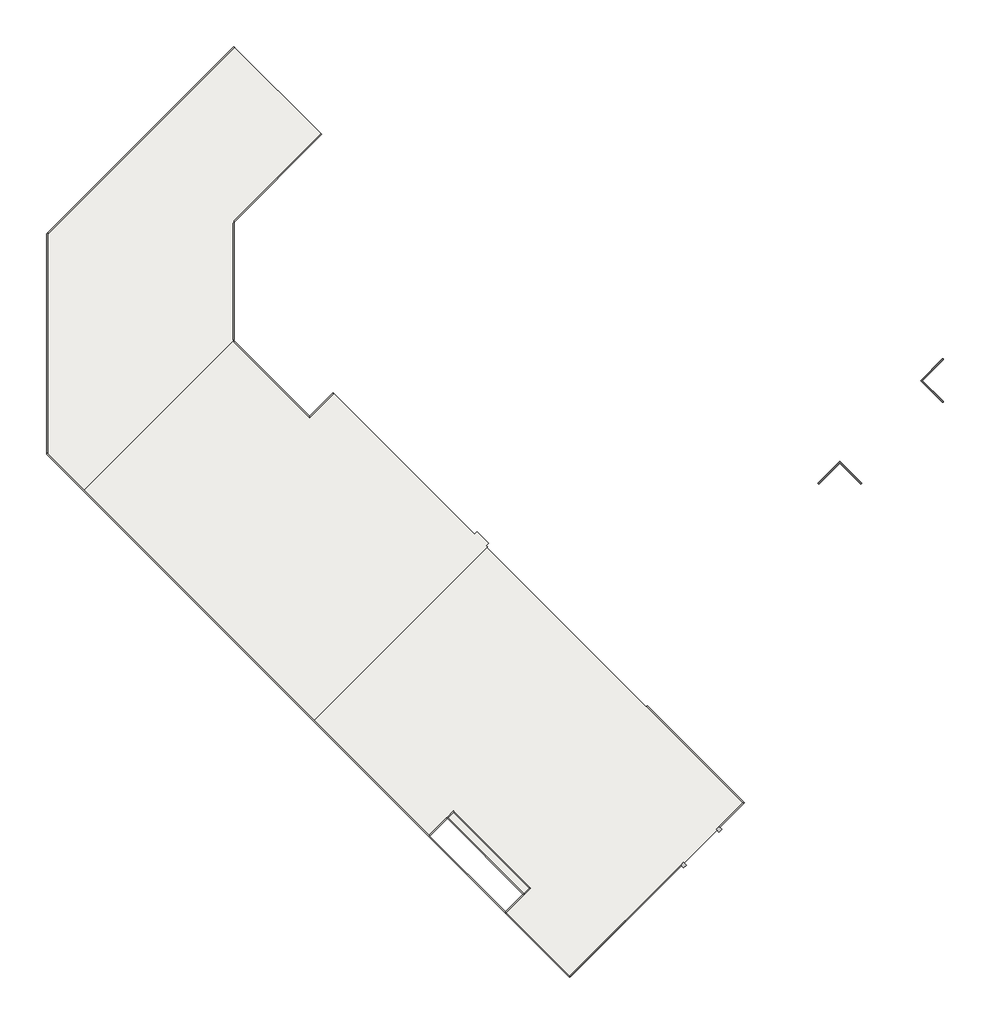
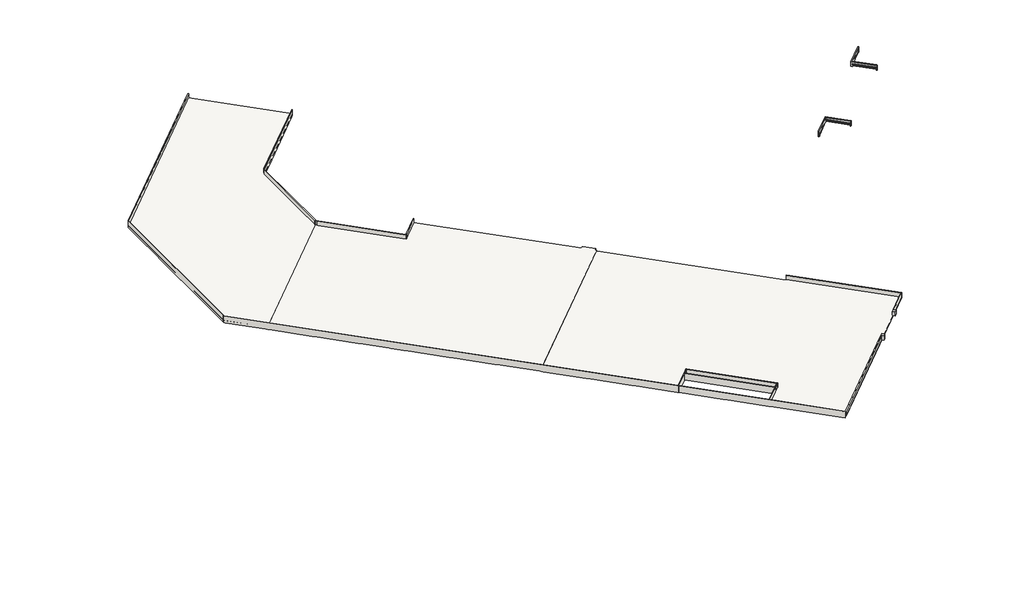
# One storey: 16 walls, 3 slabs, 2 columns, 2 railings.
"""IFC4 building model written with IfcOpenShell, lengths in millimetres."""

from ifc_helpers import new_model, si_unit, frame, origin, place, context, project, spatial, polyline, outline, extrude, faceted_brep, transform, mapped, element, save
from components import equal_corner_railing_small_equal_corner_railing_small_9601f2c6, equal_corner_railing_small_equal_corner_railing_small_101afe3f

model = new_model("IFC4")

# Units and contexts
model_context = context("Model", 3, world=origin())
ifc_project = project(units=[si_unit("LENGTHUNIT", "METRE", prefix="MILLI")], contexts=[model_context])

# Site, building, storey
site = spatial("IfcSite", under=ifc_project)
building = spatial("IfcBuilding", under=site)
storey = spatial("IfcBuildingStorey", under=building, Name="PARKING - PIEDMONT", Elevation=3225.8)

# Columns
placement = place(None, origin())
element("IfcColumn", 1, ObjectType="Rectangular Column : 24\" x 24\"", at=placement, inside=storey, context=model_context, shape_type="Brep", body=[
    faceted_brep([(26490.8260932, -28309.4686077, 3225.8), (26059.7737994, -28740.5209015, 3225.8), (25628.7215056, -28309.4686077, 3225.8), (26059.7737994, -27878.4163138, 3225.8), (26167.5368729, -27986.1793873, 3225.8), (26490.8260932, -28309.4686077, 4140.2), (26059.7737994, -27878.4163138, 4140.2), (26167.5368729, -27986.1793873, 4140.2), (26059.7737994, -28740.5209015, 4140.2), (25628.7215056, -28309.4686077, 4140.2)], [[[0, 1, 2, 3, 4]], [[5, 0, 4, 3, 6, 7]], [[1, 0, 5, 8]], [[2, 1, 8, 9]], [[3, 2, 9, 6]], [[8, 5, 7, 6, 9]]]),
])
element("IfcColumn", 2, ObjectType="Rectangular Column : 24\" x 24\"", at=placement, inside=storey, context=model_context, shape_type="Brep", body=[
    faceted_brep([(20456.0939799, -33482.0961334, 3225.8), (20887.1462737, -33913.1484272, 3225.8), (20456.0939799, -34344.200721, 3225.8), (20132.8047595, -34020.9115007, 3225.8), (20025.0416861, -33913.1484272, 3225.8), (20456.0939799, -33482.0961334, 4140.2), (20887.1462737, -33913.1484272, 4140.2), (20456.0939799, -34344.200721, 4140.2), (20132.8047595, -34020.9115007, 4140.2), (20025.0416861, -33913.1484272, 4140.2)], [[[0, 1, 2, 3, 4]], [[1, 0, 5, 6]], [[2, 1, 6, 7]], [[2, 7, 8, 9, 4, 3]], [[0, 4, 9, 5]], [[6, 5, 9, 8, 7]]]),
])

# Railings
equal_corner_railing_small_equal_corner_railing_small_shape = equal_corner_railing_small_equal_corner_railing_small_9601f2c6(model_context)
element("IfcRailing", 3, ObjectType="Equal Corner Railing_Small : Equal Corner Railing_Small", at=placement, inside=storey, context=model_context, shape_type="MappedRepresentation", body=[
    mapped(equal_corner_railing_small_equal_corner_railing_small_shape, transform((57925.6767654, 42277.9675885, 4140.2), x_axis=(0.7071067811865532, -0.7071067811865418, 0.0), y_axis=(0.7071067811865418, 0.7071067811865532, 0.0), z_axis=(0.0, 0.0, 1.0))),
])
equal_corner_railing_small_equal_corner_railing_small_2_shape = equal_corner_railing_small_equal_corner_railing_small_101afe3f(model_context)
element("IfcRailing", 4, ObjectType="Equal Corner Railing_Small : Equal Corner Railing_Small", at=placement, inside=storey, context=model_context, shape_type="MappedRepresentation", body=[
    mapped(equal_corner_railing_small_equal_corner_railing_small_2_shape, transform((45065.95, 29418.2408231, 4140.2), x_axis=(0.7071067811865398, -0.7071067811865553, 0.0), y_axis=(0.7071067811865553, 0.7071067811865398, 0.0), z_axis=(0.0, 0.0, 1.0))),
])

# Slabs
element("IfcSlab", 5, ObjectType="5\" Concrete Slab", at=placement, inside=storey, context=model_context, shape_type="SweptSolid", body=[
    extrude(outline(polyline([(2675.1868602, -51478.5294), (-7418.6210199, -41384.7215199), (-4545.1756369, -38511.2761369), (-16686.4819126, -26369.9698612), (-19559.9272956, -29243.4152442), (-37610.242099, -11193.1004409), (-10435.9870766, 15981.1545815), (14585.95, -9040.7824951), (14783.5156347, -8843.2168605), (30047.0075172, -24106.708743), (2675.1868602, -51478.5294)])), frame((0.0, 0.0, 3098.8), z_axis=(0.0, 0.0, 1.0), x_axis=(1.0, 0.0, 0.0)), (0.0, 0.0, 1.0), 127.0),
])
element("IfcSlab", 6, ObjectType="5\" Concrete Slab", at=placement, inside=storey, context=model_context, shape_type="SweptSolid", body=[
    extrude(outline(polyline([(-50272.4032297, 94791.8823), (-36442.8088032, 80962.2878735), (-50248.8083521, 67156.2883246), (-50248.8083521, 48656.9607152), (-73962.318877, 24943.4501903), (-79741.113691, 30722.2450042), (-79741.113691, 65323.1718387), (-50272.4032297, 94791.8823)])), frame((0.0, 0.0, 3098.8), z_axis=(0.0, 0.0, 1.0), x_axis=(1.0, 0.0, 0.0)), (0.0, 0.0, 1.0), 127.0),
])
element("IfcSlab", 7, ObjectType="5\" Concrete Slab", at=placement, inside=storey, context=model_context, shape_type="SweptSolid", body=[
    extrude(outline(polyline([(-37753.9261969, -11264.9424899), (-73926.3978526, 24907.5291658), (-50290.3637419, 48543.5632765), (-38378.0539973, 36631.2535319), (-34660.2279632, 40349.079566), (-12393.682911, 18082.5345138), (-11998.5516417, 18477.6657831), (-10220.4609297, 16699.5750711), (-10597.6316868, 16322.4043141), (-10382.1055399, 16106.8781672), (-37753.9261969, -11264.9424899)])), frame((0.0, 0.0, 3098.8), z_axis=(0.0, 0.0, 1.0), x_axis=(1.0, 0.0, 0.0)), (0.0, 0.0, 1.0), 127.0),
])

# Walls
element("IfcWall", 8, ObjectType="01-CONCRETE-6", at=placement, inside=storey, context=model_context, shape_type="Brep", body=[
    faceted_brep([(20025.0416861, -33913.1484272, 3225.8), (2459.6607133, -51478.5294, 3225.8), (2459.6607133, -51478.5294, 4140.2), (2567.4237867, -51370.7663266, 4140.2), (20025.0416861, -33913.1484272, 4140.2), (20132.8047595, -34020.9115007, 3225.8), (20132.8047595, -34020.9115007, 4140.2), (2567.4237867, -51586.2924735, 4140.2), (2567.4237867, -51586.2924735, 3225.8)], [[[0, 1, 2, 3, 4]], [[5, 6, 7, 8]], [[1, 0, 5, 8]], [[4, 3, 2, 7, 6]], [[0, 4, 6, 5]], [[2, 1, 8, 7]]]),
])
element("IfcWall", 9, ObjectType="01-CONCRETE-6", at=placement, inside=storey, context=model_context, shape_type="Brep", body=[
    faceted_brep([(2567.4237867, -51370.7663266, 2717.8), (-7346.778971, -41456.5635689, 2717.8), (-7562.3051179, -41241.037422, 2717.8), (-13381.5110843, -35421.8314555, 2717.8), (-13597.0372312, -35206.3053086, 2717.8), (-19416.2431977, -29387.0993422, 2717.8), (-19631.7693446, -29171.5731953, 2717.8), (-25450.975311, -23352.3672288, 2717.8), (-25666.5014579, -23136.8410819, 2717.8), (-31485.7074244, -17317.6351155, 2717.8), (-31701.2335713, -17102.1089686, 2717.8), (-37394.7159521, -11408.6265878, 2717.8), (-37610.242099, -11193.1004409, 2717.8), (-37646.1631234, -11157.1794164, 2717.8), (-37861.6892703, -10941.6532695, 2717.8), (-43555.1716511, -5248.1708888, 2717.8), (-43770.697798, -5032.6447418, 2717.8), (-49589.9037645, 786.5612246, 2717.8), (-49805.4299114, 1002.0873715, 2717.8), (-55624.6358778, 6821.293338, 2717.8), (-55840.1620247, 7036.8194849, 2717.8), (-57528.4501755, 8725.1076356, 2717.8), (-57743.9763224, 8940.6337825, 2717.8), (-61659.3679912, 12856.0254513, 2717.8), (-61874.8941381, 13071.5515982, 2717.8), (-67694.1001045, 18890.7575647, 2717.8), (-67909.6262514, 19106.2837116, 2717.8), (-73603.1086322, 24799.7660923, 2717.8), (-73818.6347791, 25015.2922393, 2717.8), (-73854.5558036, 25051.2132637, 2717.8), (-74070.0819505, 25266.7394106, 2717.8), (-79417.8244706, 30614.4819307, 2717.8), (-79633.3506175, 30830.0080776, 2717.8), (-79741.113691, 30937.7711511, 2717.8), (-79741.113691, 30937.7711511, 2768.6), (-79741.113691, 30937.7711511, 4140.2), (-79588.713691, 30785.3711511, 4140.2), (-19559.9272956, -29243.4152442, 4140.2), (-19452.1642222, -29351.1783177, 4140.2), (-7526.3840934, -41276.9584465, 4140.2), (-7418.6210199, -41384.7215199, 4140.2), (2567.4237867, -51370.7663266, 4140.2), (2459.6607133, -51478.5294, 2717.8), (2459.6607133, -51478.5294, 3225.8), (2459.6607133, -51478.5294, 4140.2), (-79741.113691, 30722.2450042, 4140.2), (-79741.113691, 30722.2450042, 2717.8), (-79525.587544, 30506.7188573, 2717.8), (-74177.845024, 25158.9763372, 2717.8), (-73962.318877, 24943.4501903, 2717.8), (-73926.3978526, 24907.5291658, 2717.8), (-73710.8717057, 24692.0030189, 2717.8), (-68017.3893249, 18998.5206381, 2717.8), (-67801.863178, 18782.9944912, 2717.8), (-61982.6572115, 12963.7885248, 2717.8), (-61767.1310646, 12748.2623779, 2717.8), (-57851.7393958, 8832.8707091, 2717.8), (-57636.2132489, 8617.3445622, 2717.8), (-55947.9250982, 6929.0564114, 2717.8), (-55732.3989513, 6713.5302645, 2717.8), (-49913.1929848, 894.3242981, 2717.8), (-49697.6668379, 678.7981512, 2717.8), (-43878.4608715, -5140.4078153, 2717.8), (-43662.9347246, -5355.9339622, 2717.8), (-37969.4523438, -11049.416343, 2717.8), (-37753.9261969, -11264.9424899, 2717.8), (-37718.0051724, -11300.8635144, 2717.8), (-37502.4790255, -11516.3896613, 2717.8), (-31808.9966447, -17209.872042, 2717.8), (-31593.4704978, -17425.3981889, 2717.8), (-25774.2645314, -23244.6041554, 2717.8), (-25558.7383845, -23460.1303023, 2717.8), (-19739.532418, -29279.3362687, 2717.8), (-19524.0062711, -29494.8624156, 2717.8), (-13704.8003047, -35314.0683821, 2717.8), (-13489.2741578, -35529.594529, 2717.8), (-7670.0681913, -41348.8004954, 2717.8), (-7454.5420444, -41564.3266424, 2717.8)], [[[0, 1, 2, 3, 4, 5, 6, 7, 8, 9, 10, 11, 12, 13, 14, 15, 16, 17, 18, 19, 20, 21, 22, 23, 24, 25, 26, 27, 28, 29, 30, 31, 32, 33, 34, 35, 36, 37, 38, 39, 40, 41]], [[42, 43, 44, 45, 46, 47, 48, 49, 50, 51, 52, 53, 54, 55, 56, 57, 58, 59, 60, 61, 62, 63, 64, 65, 66, 67, 68, 69, 70, 71, 72, 73, 74, 75, 76, 77]], [[33, 32, 31, 30, 29, 28, 27, 26, 25, 24, 23, 22, 21, 20, 19, 18, 17, 16, 15, 14, 13, 12, 11, 10, 9, 8, 7, 6, 5, 4, 3, 2, 1, 0, 42, 77, 76, 75, 74, 73, 72, 71, 70, 69, 68, 67, 66, 65, 64, 63, 62, 61, 60, 59, 58, 57, 56, 55, 54, 53, 52, 51, 50, 49, 48, 47, 46]], [[41, 40, 39, 38, 37, 36, 35, 45, 44]], [[0, 41, 44, 43, 42]], [[35, 34, 33, 46, 45]]]),
])
element("IfcWall", 10, ObjectType="01-CONCRETE-6", at=placement, inside=storey, context=model_context, shape_type="Brep", body=[
    faceted_brep([(-79588.713691, 30785.3711511, 2768.6), (-79588.713691, 30874.6450042, 2768.6), (-79588.713691, 37705.0660287, 2768.6), (-79588.713691, 38009.8660287, 2768.6), (-79588.713691, 45934.6660287, 2768.6), (-79588.713691, 46239.4660287, 2768.6), (-79588.713691, 54164.2660287, 2768.6), (-79588.713691, 54469.0660287, 2768.6), (-79588.713691, 62393.8660287, 2768.6), (-79588.713691, 62698.6660287, 2768.6), (-79588.713691, 65260.0456918, 2768.6), (-79588.713691, 65475.5718387, 2768.6), (-79588.713691, 65475.5718387, 4140.2), (-79588.713691, 65260.0456918, 4140.2), (-79588.713691, 30785.3711511, 4140.2), (-79588.713691, 30785.3711511, 3225.8), (-79741.113691, 30937.7711511, 2768.6), (-79741.113691, 30937.7711511, 4140.2), (-79741.113691, 65323.1718387, 4140.2), (-79741.113691, 65323.1718387, 2768.6), (-79741.113691, 62698.6660287, 2768.6), (-79741.113691, 62393.8660287, 2768.6), (-79741.113691, 54469.0660287, 2768.6), (-79741.113691, 54164.2660287, 2768.6), (-79741.113691, 46239.4660287, 2768.6), (-79741.113691, 45934.6660287, 2768.6), (-79741.113691, 38009.8660287, 2768.6), (-79741.113691, 37705.0660287, 2768.6), (-79633.3506175, 30830.0080776, 2768.6)], [[[0, 1, 2, 3, 4, 5, 6, 7, 8, 9, 10, 11, 12, 13, 14, 15]], [[16, 17, 18, 19, 20, 21, 22, 23, 24, 25, 26, 27]], [[11, 10, 9, 8, 7, 6, 5, 4, 3, 2, 1, 0, 28, 16, 27, 26, 25, 24, 23, 22, 21, 20, 19]], [[14, 13, 12, 18, 17]], [[0, 15, 14, 17, 16, 28]], [[12, 11, 19, 18]]]),
])
element("IfcWall", 11, ObjectType="01-CONCRETE-6", at=placement, inside=storey, context=model_context, shape_type="Brep", body=[
    faceted_brep([(-79588.713691, 65260.0456918, 2768.6), (-74205.9300296, 70642.8293531, 2768.6), (-73920.493354, 70928.2660287, 2768.6), (-61892.8546503, 82955.9047324, 2768.6), (-61677.3285034, 83171.4308793, 2768.6), (-56073.6486839, 88775.1106988, 2768.6), (-55858.122537, 88990.6368457, 2768.6), (-50164.6401562, 94684.1192265, 2768.6), (-50164.6401562, 94684.1192265, 4140.2), (-79588.713691, 65260.0456918, 4140.2), (-79588.713691, 65475.5718387, 2768.6), (-79588.713691, 65475.5718387, 4140.2), (-50272.4032297, 94791.8823, 4140.2), (-50272.4032297, 94791.8823, 2768.6), (-55965.8856104, 89098.3999192, 2768.6), (-56181.4117573, 88882.8737723, 2768.6), (-61785.0915769, 83279.1939527, 2768.6), (-62000.6177238, 83063.6678058, 2768.6), (-74136.0195009, 70928.2660287, 2768.6), (-74205.9300296, 70858.3555, 2768.6)], [[[0, 1, 2, 3, 4, 5, 6, 7, 8, 9]], [[10, 11, 12, 13, 14, 15, 16, 17, 18, 19]], [[7, 6, 5, 4, 3, 2, 1, 0, 10, 19, 18, 17, 16, 15, 14, 13]], [[8, 7, 13, 12]], [[9, 8, 12, 11]], [[0, 9, 11, 10]]]),
])
element("IfcWall", 12, ObjectType="01-CONCRETE-6", at=placement, inside=storey, context=model_context, shape_type="Brep", body=[
    faceted_brep([(14675.7525612, -8950.9799339, 3225.8), (29831.4813703, -24106.708743, 3225.8), (29939.2444437, -24214.4718164, 3225.8), (29939.2444437, -24214.4718164, 4140.2), (29831.4813703, -24106.708743, 4140.2), (14675.7525612, -8950.9799339, 4140.2), (14783.5156347, -8843.2168605, 3225.8), (14783.5156347, -8843.2168605, 4140.2), (30047.0075172, -24106.708743, 4140.2), (30047.0075172, -24106.708743, 3225.8)], [[[0, 1, 2, 3, 4, 5]], [[6, 7, 8, 9]], [[2, 1, 0, 6, 9]], [[5, 4, 3, 8, 7]], [[0, 5, 7, 6]], [[3, 2, 9, 8]]]),
])
element("IfcWall", 13, ObjectType="01-CONCRETE-6", at=placement, inside=storey, context=model_context, shape_type="SweptSolid", body=[
    extrude(outline(polyline([(26059.7737994, -27878.4163138), (29831.4813703, -24106.708743), (29939.2444437, -24214.4718164), (26167.5368729, -27986.1793873), (26059.7737994, -27878.4163138)])), frame((0.0, 0.0, 3225.8), z_axis=(0.0, 0.0, 1.0), x_axis=(1.0, 0.0, 0.0)), (0.0, 0.0, 1.0), 914.4),
])
element("IfcWall", 14, ObjectType="01-CONCRETE-6", at=placement, inside=storey, context=model_context, shape_type="Brep", body=[
    faceted_brep([(-36550.5718767, 81070.050947, 2768.6), (-36766.0980236, 80854.5248001, 2768.6), (-42244.0542574, 75376.5685662, 2768.6), (-42459.5804043, 75161.0424193, 2768.6), (-48063.2602239, 69557.3625998, 2768.6), (-48278.7863708, 69341.8364529, 2768.6), (-50248.8083521, 67371.8144716, 2768.6), (-50248.8083521, 67371.8144716, 3098.8), (-50248.8083521, 67371.8144716, 4140.2), (-36550.5718767, 81070.050947, 4140.2), (-36550.5718767, 81070.050947, 3225.8), (-36442.8088032, 80962.2878735, 2768.6), (-36442.8088032, 80962.2878735, 4140.2), (-50248.8083521, 67156.2883246, 4140.2), (-50248.8083521, 67156.2883246, 2768.6), (-48171.0232973, 69234.0733794, 2768.6), (-47955.4971504, 69449.5995263, 2768.6), (-42351.8173309, 75053.2793459, 2768.6), (-42136.291184, 75268.8054928, 2768.6), (-36658.3349501, 80746.7617266, 2768.6)], [[[0, 1, 2, 3, 4, 5, 6, 7, 8, 9, 10]], [[11, 12, 13, 14, 15, 16, 17, 18, 19]], [[6, 5, 4, 3, 2, 1, 0, 11, 19, 18, 17, 16, 15, 14]], [[9, 8, 13, 12]], [[0, 10, 9, 12, 11]], [[8, 7, 6, 14, 13]]]),
])
element("IfcWall", 15, ObjectType="01-CONCRETE-6", at=placement, inside=storey, context=model_context, shape_type="Brep", body=[
    faceted_brep([(-50401.2083521, 67003.8883246, 4140.2), (-50401.2083521, 67003.8883246, 2768.6), (-50401.2083521, 57987.2896908, 2768.6), (-50401.2083521, 57682.4896908, 2768.6), (-50401.2083521, 48656.9607152, 2768.6), (-50401.2083521, 48656.9607152, 4140.2), (-50248.8083521, 67156.2883246, 2768.6), (-50248.8083521, 67156.2883246, 4140.2), (-50248.8083521, 48656.9607152, 4140.2), (-50248.8083521, 48656.9607152, 2768.6), (-50248.8083521, 57682.4896908, 2768.6), (-50248.8083521, 57987.2896908, 2768.6)], [[[0, 1, 2, 3, 4, 5]], [[6, 7, 8, 9, 10, 11]], [[4, 3, 2, 1, 6, 11, 10, 9]], [[5, 4, 9, 8]], [[0, 5, 8, 7]], [[0, 7, 6, 1]]]),
])
element("IfcWall", 16, ObjectType="01-CONCRETE-6", at=placement, inside=storey, context=model_context, shape_type="Brep", body=[
    faceted_brep([(-50248.8083521, 48286.4817397, 2768.6), (-44489.1182877, 42526.7916753, 2768.6), (-44273.5921408, 42311.2655284, 2768.6), (-38378.0539973, 36415.727385, 2768.6), (-38378.0539973, 36415.727385, 4140.2), (-50248.8083521, 48286.4817397, 4140.2), (-50248.8083521, 48502.0078866, 2768.6), (-50248.8083521, 48502.0078866, 4140.2), (-38378.0539973, 36631.2535319, 4140.2), (-38270.2909239, 36523.4904584, 4140.2), (-38270.2909239, 36523.4904584, 2768.6), (-38378.0539973, 36631.2535319, 2768.6), (-44165.8290673, 42419.0286019, 2768.6), (-44381.3552142, 42634.5547488, 2768.6)], [[[0, 1, 2, 3, 4, 5]], [[6, 7, 8, 9, 10, 11, 12, 13]], [[3, 2, 1, 0, 6, 13, 12, 11, 10]], [[5, 4, 9, 8, 7]], [[4, 3, 10, 9]], [[0, 5, 7, 6]]]),
])
element("IfcWall", 17, ObjectType="01-CONCRETE-6", at=placement, inside=storey, context=model_context, shape_type="SweptSolid", body=[
    extrude(outline(polyline([(-34606.3464265, 40187.4349558), (-38270.2909239, 36523.4904584), (-38378.0539973, 36631.2535319), (-34714.1094999, 40295.1980293), (-34606.3464265, 40187.4349558)])), frame((0.0, 0.0, 2768.6), z_axis=(0.0, 0.0, 1.0), x_axis=(1.0, 0.0, 0.0)), (0.0, 0.0, 1.0), 1371.6),
])
element("IfcWall", 18, ObjectType="01-CONCRETE-6", at=placement, inside=storey, context=model_context, shape_type="Brep", body=[
    faceted_brep([(-7418.6210199, -41384.7215199, 2768.6), (-7382.6999954, -41348.8004954, 2768.6), (-7239.0158975, -41205.1163975, 2768.6), (-4544.9390612, -38511.0395612, 2768.6), (-4544.9390612, -38511.0395612, 3225.8), (-4544.9390612, -38511.0395612, 4140.2), (-7418.6210199, -41384.7215199, 4140.2), (-7418.6210199, -41384.7215199, 3225.8), (-7526.3840934, -41276.9584465, 2768.6), (-7526.3840934, -41276.9584465, 3225.8), (-7526.3840934, -41276.9584465, 4140.2), (-4760.4652081, -38511.0395612, 4140.2), (-4652.7021346, -38403.2764877, 4140.2), (-4652.7021346, -38403.2764877, 3225.8), (-4652.7021346, -38403.2764877, 2768.6), (-4760.4652081, -38511.0395612, 2768.6), (-7490.4630689, -41241.037422, 2768.6)], [[[0, 1, 2, 3, 4, 5, 6, 7]], [[8, 9, 10, 11, 12, 13, 14, 15, 16]], [[3, 2, 1, 0, 8, 16, 15, 14]], [[6, 5, 12, 11, 10]], [[0, 7, 6, 10, 9, 8]], [[3, 14, 13, 12, 5, 4]]]),
])
element("IfcWall", 19, ObjectType="01-CONCRETE-6", at=placement, inside=storey, context=model_context, shape_type="Brep", body=[
    faceted_brep([(-4652.7021346, -38403.2764877, 4140.2), (-4652.7021346, -38403.2764877, 2768.6), (-16686.2453369, -26369.7332855, 2768.6), (-16686.2453369, -26369.7332855, 3225.8), (-16686.2453369, -26369.7332855, 4140.2), (-16578.4822634, -26477.496359, 4140.2), (-4760.4652081, -38511.0395612, 2768.6), (-4760.4652081, -38511.0395612, 4140.2), (-16686.2453369, -26585.2594324, 4140.2), (-16794.0084103, -26477.496359, 4140.2), (-16794.0084103, -26477.496359, 2768.6), (-16686.2453369, -26585.2594324, 2768.6)], [[[0, 1, 2, 3, 4, 5]], [[6, 7, 8, 9, 10, 11]], [[2, 1, 6, 11, 10]], [[0, 5, 4, 9, 8, 7]], [[2, 10, 9, 4, 3]], [[0, 7, 6, 1]]]),
])
element("IfcWall", 20, ObjectType="01-CONCRETE-6", at=placement, inside=storey, context=model_context, shape_type="Brep", body=[
    faceted_brep([(-16794.0084103, -26477.496359, 4140.2), (-16794.0084103, -26477.496359, 2768.6), (-19380.3221732, -29063.8101218, 2768.6), (-19559.9272956, -29243.4152442, 2768.6), (-19559.9272956, -29243.4152442, 3225.8), (-19559.9272956, -29243.4152442, 4140.2), (-16686.2453369, -26585.2594324, 2768.6), (-16686.2453369, -26585.2594324, 4140.2), (-19452.1642222, -29351.1783177, 4140.2), (-19452.1642222, -29351.1783177, 3225.8), (-19452.1642222, -29351.1783177, 2768.6), (-19272.5590997, -29171.5731953, 2768.6)], [[[0, 1, 2, 3, 4, 5]], [[6, 7, 8, 9, 10, 11]], [[3, 2, 1, 6, 11, 10]], [[0, 5, 8, 7]], [[5, 4, 3, 10, 9, 8]], [[0, 7, 6, 1]]]),
])
element("IfcWall", 21, ObjectType="01-CONCRETE-6", at=placement, inside=storey, context=model_context, shape_type="Brep", body=[
    faceted_brep([(-16578.4822634, -26477.496359, 3225.8), (-15716.3776758, -25615.3917713, 3225.8), (-15608.6146023, -25507.6286979, 3225.8), (-15608.6146023, -25507.6286979, 4140.2), (-15716.3776758, -25615.3917713, 4140.2), (-16578.4822634, -26477.496359, 4140.2), (-16686.2453369, -26369.7332855, 3225.8), (-16686.2453369, -26369.7332855, 4140.2), (-15716.3776758, -25399.8656244, 4140.2), (-15716.3776758, -25399.8656244, 3225.8)], [[[0, 1, 2, 3, 4, 5]], [[6, 7, 8, 9]], [[2, 1, 0, 6, 9]], [[5, 4, 3, 8, 7]], [[3, 2, 9, 8]], [[0, 5, 7, 6]]]),
])
element("IfcWall", 22, ObjectType="01-CONCRETE-6", at=placement, inside=storey, context=model_context, shape_type="Brep", body=[
    faceted_brep([(-15716.3776758, -25615.3917713, 3225.8), (-3790.597547, -37541.1719001, 3225.8), (-3682.8344736, -37648.9349736, 3225.8), (-3682.8344736, -37648.9349736, 4140.2), (-3790.597547, -37541.1719001, 4140.2), (-15716.3776758, -25615.3917713, 4140.2), (-15608.6146023, -25507.6286979, 3225.8), (-15608.6146023, -25507.6286979, 4140.2), (-3575.0714001, -37541.1719001, 4140.2), (-3575.0714001, -37541.1719001, 3225.8)], [[[0, 1, 2, 3, 4, 5]], [[6, 7, 8, 9]], [[2, 1, 0, 6, 9]], [[5, 4, 3, 8, 7]], [[0, 5, 7, 6]], [[3, 2, 9, 8]]]),
])
element("IfcWall", 23, ObjectType="01-CONCRETE-6", at=placement, inside=storey, context=model_context, shape_type="SweptSolid", body=[
    extrude(outline(polyline([(-4652.7021346, -38403.2764877), (-3790.597547, -37541.1719001), (-3682.8344736, -37648.9349736), (-4544.9390612, -38511.0395612), (-4652.7021346, -38403.2764877)])), frame((0.0, 0.0, 3225.8), z_axis=(0.0, 0.0, 1.0), x_axis=(1.0, 0.0, 0.0)), (0.0, 0.0, 1.0), 914.4),
])

save(model, "model.ifc")
